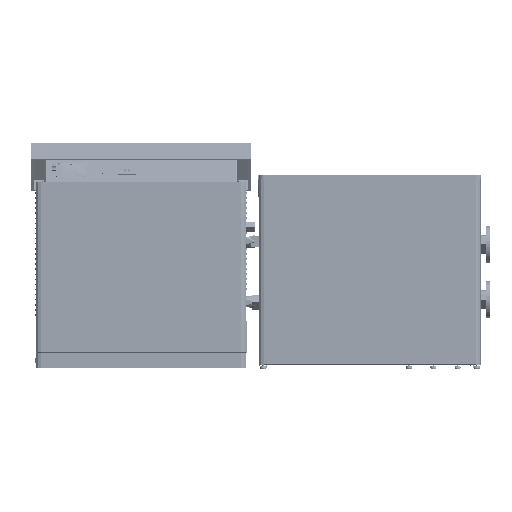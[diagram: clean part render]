
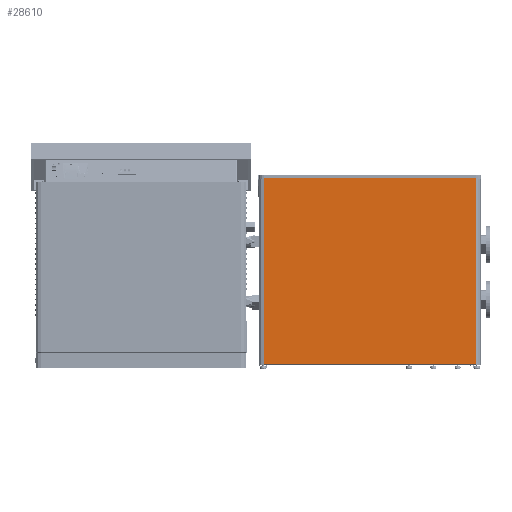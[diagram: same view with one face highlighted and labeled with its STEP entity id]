
A CAD part, front view. The second image highlights one B-rep face of the part: STEP entity #28610.
In plain terms, the highlighted planar face has unit normal (0, -1, 0) as drawn and (0, 1, 0) by its records, which use the part's own axes.
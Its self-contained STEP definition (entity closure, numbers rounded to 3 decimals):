
#28610 = ADVANCED_FACE( '', ( #60619 ), #60620, .F. );
#60619 = FACE_OUTER_BOUND( '', #105068, .T. );
#60620 = PLANE( '', #105069 );
#105068 = EDGE_LOOP( '', ( #172764, #172765, #172766, #172767, #172768, #172769, #172770, #172771, #172772, #172773, #172774, #172775, #172776, #172777 ) );
#105069 = AXIS2_PLACEMENT_3D( '', #172778, #172779, #172780 );
#172764 = ORIENTED_EDGE( '', *, *, #296776, .F. );
#172765 = ORIENTED_EDGE( '', *, *, #296777, .F. );
#172766 = ORIENTED_EDGE( '', *, *, #296778, .F. );
#172767 = ORIENTED_EDGE( '', *, *, #284785, .T. );
#172768 = ORIENTED_EDGE( '', *, *, #296779, .T. );
#172769 = ORIENTED_EDGE( '', *, *, #296780, .F. );
#172770 = ORIENTED_EDGE( '', *, *, #296781, .T. );
#172771 = ORIENTED_EDGE( '', *, *, #296782, .F. );
#172772 = ORIENTED_EDGE( '', *, *, #283987, .T. );
#172773 = ORIENTED_EDGE( '', *, *, #296783, .T. );
#172774 = ORIENTED_EDGE( '', *, *, #296784, .F. );
#172775 = ORIENTED_EDGE( '', *, *, #296785, .F. );
#172776 = ORIENTED_EDGE( '', *, *, #296786, .F. );
#172777 = ORIENTED_EDGE( '', *, *, #296787, .T. );
#172778 = CARTESIAN_POINT( '', ( -655., 0., 0. ) );
#172779 = DIRECTION( '', ( 0., -1., 0. ) );
#172780 = DIRECTION( '', ( 0., 0., -1. ) );
#283987 = EDGE_CURVE( '', #328871, #328868, #328872, .T. );
#284785 = EDGE_CURVE( '', #330320, #330318, #330321, .T. );
#296776 = EDGE_CURVE( '', #351110, #351111, #351112, .T. );
#296777 = EDGE_CURVE( '', #351113, #351110, #351114, .T. );
#296778 = EDGE_CURVE( '', #330320, #351113, #351115, .T. );
#296779 = EDGE_CURVE( '', #330318, #334299, #351116, .T. );
#296780 = EDGE_CURVE( '', #339037, #334299, #351117, .T. );
#296781 = EDGE_CURVE( '', #339037, #351118, #351119, .T. );
#296782 = EDGE_CURVE( '', #328871, #351118, #351120, .T. );
#296783 = EDGE_CURVE( '', #328868, #351121, #351122, .T. );
#296784 = EDGE_CURVE( '', #351123, #351121, #351124, .T. );
#296785 = EDGE_CURVE( '', #351125, #351123, #351126, .T. );
#296786 = EDGE_CURVE( '', #351127, #351125, #351128, .T. );
#296787 = EDGE_CURVE( '', #351127, #351111, #351129, .T. );
#328868 = VERTEX_POINT( '', #393653 );
#328871 = VERTEX_POINT( '', #393656 );
#328872 = LINE( '', #393657, #393658 );
#330318 = VERTEX_POINT( '', #396378 );
#330320 = VERTEX_POINT( '', #396381 );
#330321 = LINE( '', #396382, #396383 );
#334299 = VERTEX_POINT( '', #403081 );
#339037 = VERTEX_POINT( '', #410920 );
#351110 = VERTEX_POINT( '', #433804 );
#351111 = VERTEX_POINT( '', #433805 );
#351112 = LINE( '', #433806, #433807 );
#351113 = VERTEX_POINT( '', #433808 );
#351114 = LINE( '', #433809, #433810 );
#351115 = LINE( '', #433811, #433812 );
#351116 = LINE( '', #433813, #433814 );
#351117 = LINE( '', #433815, #433816 );
#351118 = VERTEX_POINT( '', #433817 );
#351119 = LINE( '', #433818, #433819 );
#351120 = LINE( '', #433820, #433821 );
#351121 = VERTEX_POINT( '', #433822 );
#351122 = LINE( '', #433823, #433824 );
#351123 = VERTEX_POINT( '', #433825 );
#351124 = LINE( '', #433826, #433827 );
#351125 = VERTEX_POINT( '', #433828 );
#351126 = LINE( '', #433829, #433830 );
#351127 = VERTEX_POINT( '', #433831 );
#351128 = LINE( '', #433832, #433833 );
#351129 = LINE( '', #433834, #433835 );
#393653 = CARTESIAN_POINT( '', ( -624., 0., 1114.166 ) );
#393656 = CARTESIAN_POINT( '', ( -624., 0., 1.002 ) );
#393657 = CARTESIAN_POINT( '', ( -624., 0., 0. ) );
#393658 = VECTOR( '', #508098, 1000. );
#396378 = CARTESIAN_POINT( '', ( 624., 0., 1114.166 ) );
#396381 = CARTESIAN_POINT( '', ( 624., 0., 1115. ) );
#396382 = CARTESIAN_POINT( '', ( 624., 0., 1115. ) );
#396383 = VECTOR( '', #508992, 1000. );
#403081 = CARTESIAN_POINT( '', ( 624., 0., 1.002 ) );
#410920 = CARTESIAN_POINT( '', ( 623.998, 0., 1.002 ) );
#433804 = CARTESIAN_POINT( '', ( 605., 0., 1114.998 ) );
#433805 = CARTESIAN_POINT( '', ( 604., 0., 1114.998 ) );
#433806 = CARTESIAN_POINT( '', ( 605., 0., 1114.998 ) );
#433807 = VECTOR( '', #523126, 1000. );
#433808 = CARTESIAN_POINT( '', ( 605., 0., 1115. ) );
#433809 = CARTESIAN_POINT( '', ( 605., 0., 1114.998 ) );
#433810 = VECTOR( '', #523127, 1000. );
#433811 = CARTESIAN_POINT( '', ( 655., 0., 1115. ) );
#433812 = VECTOR( '', #523128, 1000. );
#433813 = CARTESIAN_POINT( '', ( 624., 0., 1115. ) );
#433814 = VECTOR( '', #523129, 1000. );
#433815 = CARTESIAN_POINT( '', ( 624., 0., 1.002 ) );
#433816 = VECTOR( '', #523130, 1000. );
#433817 = CARTESIAN_POINT( '', ( -623.998, 0., 1.002 ) );
#433818 = CARTESIAN_POINT( '', ( 623.998, 0., 1.002 ) );
#433819 = VECTOR( '', #523131, 1000. );
#433820 = CARTESIAN_POINT( '', ( 624., 0., 1.002 ) );
#433821 = VECTOR( '', #523132, 1000. );
#433822 = CARTESIAN_POINT( '', ( -624., 0., 1115. ) );
#433823 = CARTESIAN_POINT( '', ( -624., 0., 0. ) );
#433824 = VECTOR( '', #523133, 1000. );
#433825 = CARTESIAN_POINT( '', ( -605., 0., 1115. ) );
#433826 = CARTESIAN_POINT( '', ( 655., 0., 1115. ) );
#433827 = VECTOR( '', #523134, 1000. );
#433828 = CARTESIAN_POINT( '', ( -605., 0., 1114.998 ) );
#433829 = CARTESIAN_POINT( '', ( -605., 0., 1115. ) );
#433830 = VECTOR( '', #523135, 1000. );
#433831 = CARTESIAN_POINT( '', ( -604., 0., 1114.998 ) );
#433832 = CARTESIAN_POINT( '', ( 605., 0., 1114.998 ) );
#433833 = VECTOR( '', #523136, 1000. );
#433834 = CARTESIAN_POINT( '', ( -604., 0., 1114.998 ) );
#433835 = VECTOR( '', #523137, 1000. );
#508098 = DIRECTION( '', ( 0., 0., 1. ) );
#508992 = DIRECTION( '', ( 0., 0., -1. ) );
#523126 = DIRECTION( '', ( -1., 0., 0. ) );
#523127 = DIRECTION( '', ( 0., 0., -1. ) );
#523128 = DIRECTION( '', ( -1., 0., 0. ) );
#523129 = DIRECTION( '', ( 0., 0., -1. ) );
#523130 = DIRECTION( '', ( 1., 0., 0. ) );
#523131 = DIRECTION( '', ( -1., 0., 0. ) );
#523132 = DIRECTION( '', ( 1., 0., 0. ) );
#523133 = DIRECTION( '', ( 0., 0., 1. ) );
#523134 = DIRECTION( '', ( -1., 0., 0. ) );
#523135 = DIRECTION( '', ( 0., 0., 1. ) );
#523136 = DIRECTION( '', ( -1., 0., 0. ) );
#523137 = DIRECTION( '', ( 1., 0., 0. ) );
